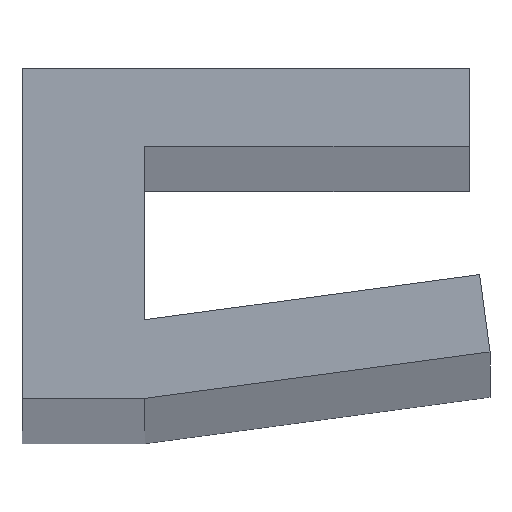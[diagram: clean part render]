
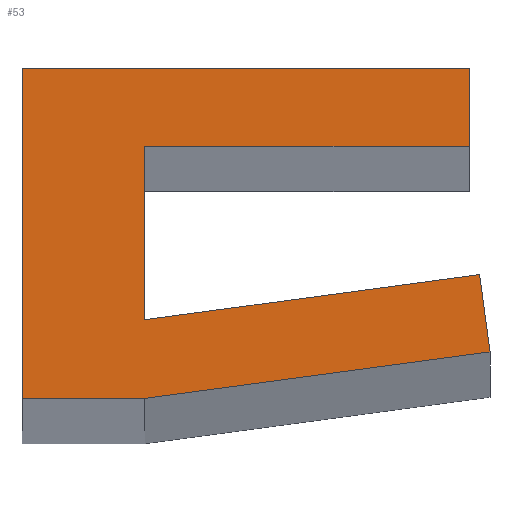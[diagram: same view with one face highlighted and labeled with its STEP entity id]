
A CAD part, top view. The second image highlights one B-rep face of the part: STEP entity #53.
In plain terms, the highlighted planar face has unit normal (0, 0, 1).
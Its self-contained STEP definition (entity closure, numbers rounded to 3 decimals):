
#2 = VERTEX_POINT ( 'NONE', #233 ) ;
#3 = EDGE_CURVE ( 'NONE', #2, #5, #197, .T. ) ;
#5 = VERTEX_POINT ( 'NONE', #244 ) ;
#16 = EDGE_CURVE ( 'NONE', #240, #251, #225, .T. ) ;
#18 = ORIENTED_EDGE ( 'NONE', *, *, #42, .F. ) ;
#30 = EDGE_CURVE ( 'NONE', #31, #39, #268, .T. ) ;
#31 = VERTEX_POINT ( 'NONE', #284 ) ;
#33 = EDGE_CURVE ( 'NONE', #85, #31, #278, .T. ) ;
#39 = VERTEX_POINT ( 'NONE', #184 ) ;
#42 = EDGE_CURVE ( 'NONE', #39, #60, #159, .T. ) ;
#45 = ORIENTED_EDGE ( 'NONE', *, *, #30, .F. ) ;
#46 = ORIENTED_EDGE ( 'NONE', *, *, #82, .F. ) ;
#53 = ADVANCED_FACE ( 'NONE', ( #143 ), #141, .T. ) ;
#57 = EDGE_CURVE ( 'NONE', #60, #240, #145, .T. ) ;
#60 = VERTEX_POINT ( 'NONE', #136 ) ;
#63 = ORIENTED_EDGE ( 'NONE', *, *, #3, .F. ) ;
#66 = ORIENTED_EDGE ( 'NONE', *, *, #16, .F. ) ;
#67 = ORIENTED_EDGE ( 'NONE', *, *, #33, .F. ) ;
#68 = ORIENTED_EDGE ( 'NONE', *, *, #57, .F. ) ;
#69 = EDGE_LOOP ( 'NONE', ( #63, #96, #66, #68, #18, #45, #67, #46, #74 ) ) ;
#74 = ORIENTED_EDGE ( 'NONE', *, *, #89, .F. ) ;
#82 = EDGE_CURVE ( 'NONE', #90, #85, #121, .T. ) ;
#85 = VERTEX_POINT ( 'NONE', #122 ) ;
#89 = EDGE_CURVE ( 'NONE', #5, #90, #108, .T. ) ;
#90 = VERTEX_POINT ( 'NONE', #117 ) ;
#96 = ORIENTED_EDGE ( 'NONE', *, *, #250, .F. ) ;
#103 = DIRECTION ( 'NONE',  ( -1., 0., 0. ) ) ;
#104 = VECTOR ( 'NONE', #103, 1000. ) ;
#107 = CARTESIAN_POINT ( 'NONE',  ( -6.24, -1.5, 0. ) ) ;
#108 = LINE ( 'NONE', #107, #104 ) ;
#115 = DIRECTION ( 'NONE',  ( 0., -1., 0. ) ) ;
#116 = VECTOR ( 'NONE', #115, 1000. ) ;
#117 = CARTESIAN_POINT ( 'NONE',  ( -6.24, -1.5, 0. ) ) ;
#120 = CARTESIAN_POINT ( 'NONE',  ( -6.24, -4.836, 0. ) ) ;
#121 = LINE ( 'NONE', #120, #116 ) ;
#122 = CARTESIAN_POINT ( 'NONE',  ( -6.24, -4.836, 0. ) ) ;
#136 = CARTESIAN_POINT ( 'NONE',  ( -6.24, -6.35, 0. ) ) ;
#141 = PLANE ( 'NONE',  #142 ) ;
#142 = AXIS2_PLACEMENT_3D ( 'NONE', #182, #181, #180 ) ;
#143 = FACE_OUTER_BOUND ( 'NONE', #69, .T. ) ;
#145 = LINE ( 'NONE', #175, #174 ) ;
#152 = DIRECTION ( 'NONE',  ( -0.991, -0.134, 0. ) ) ;
#158 = CARTESIAN_POINT ( 'NONE',  ( -6.24, -6.35, 0. ) ) ;
#159 = LINE ( 'NONE', #158, #187 ) ;
#173 = DIRECTION ( 'NONE',  ( -1., 0., 0. ) ) ;
#174 = VECTOR ( 'NONE', #173, 1000. ) ;
#175 = CARTESIAN_POINT ( 'NONE',  ( -8.6, -6.35, 0. ) ) ;
#180 = DIRECTION ( 'NONE',  ( 1., 0., 0. ) ) ;
#181 = DIRECTION ( 'NONE',  ( 0., 0., 1. ) ) ;
#182 = CARTESIAN_POINT ( 'NONE',  ( 0., 0., 0. ) ) ;
#184 = CARTESIAN_POINT ( 'NONE',  ( 0.4, -5.455, 0. ) ) ;
#187 = VECTOR ( 'NONE', #152, 1000. ) ;
#192 = DIRECTION ( 'NONE',  ( 0.991, 0.134, 0. ) ) ;
#193 = VECTOR ( 'NONE', #192, 1000. ) ;
#197 = LINE ( 'NONE', #248, #247 ) ;
#219 = DIRECTION ( 'NONE',  ( 0., 1., 0. ) ) ;
#220 = VECTOR ( 'NONE', #219, 1000. ) ;
#221 = CARTESIAN_POINT ( 'NONE',  ( -8.6, 0., 0. ) ) ;
#225 = LINE ( 'NONE', #221, #220 ) ;
#233 = CARTESIAN_POINT ( 'NONE',  ( 0., 0., 0. ) ) ;
#240 = VERTEX_POINT ( 'NONE', #366 ) ;
#244 = CARTESIAN_POINT ( 'NONE',  ( 0., -1.5, 0. ) ) ;
#246 = DIRECTION ( 'NONE',  ( 0., -1., 0. ) ) ;
#247 = VECTOR ( 'NONE', #246, 1000. ) ;
#248 = CARTESIAN_POINT ( 'NONE',  ( 0., -1.5, 0. ) ) ;
#250 = EDGE_CURVE ( 'NONE', #251, #2, #329, .T. ) ;
#251 = VERTEX_POINT ( 'NONE', #350 ) ;
#268 = LINE ( 'NONE', #283, #282 ) ;
#277 = CARTESIAN_POINT ( 'NONE',  ( 0.2, -3.969, 0. ) ) ;
#278 = LINE ( 'NONE', #277, #193 ) ;
#281 = DIRECTION ( 'NONE',  ( 0.134, -0.991, 0. ) ) ;
#282 = VECTOR ( 'NONE', #281, 1000. ) ;
#283 = CARTESIAN_POINT ( 'NONE',  ( 0.4, -5.455, 0. ) ) ;
#284 = CARTESIAN_POINT ( 'NONE',  ( 0.2, -3.969, 0. ) ) ;
#317 = DIRECTION ( 'NONE',  ( 1., 0., 0. ) ) ;
#318 = VECTOR ( 'NONE', #317, 1000. ) ;
#328 = CARTESIAN_POINT ( 'NONE',  ( 0., 0., 0. ) ) ;
#329 = LINE ( 'NONE', #328, #318 ) ;
#350 = CARTESIAN_POINT ( 'NONE',  ( -8.6, 0., 0. ) ) ;
#366 = CARTESIAN_POINT ( 'NONE',  ( -8.6, -6.35, 0. ) ) ;
